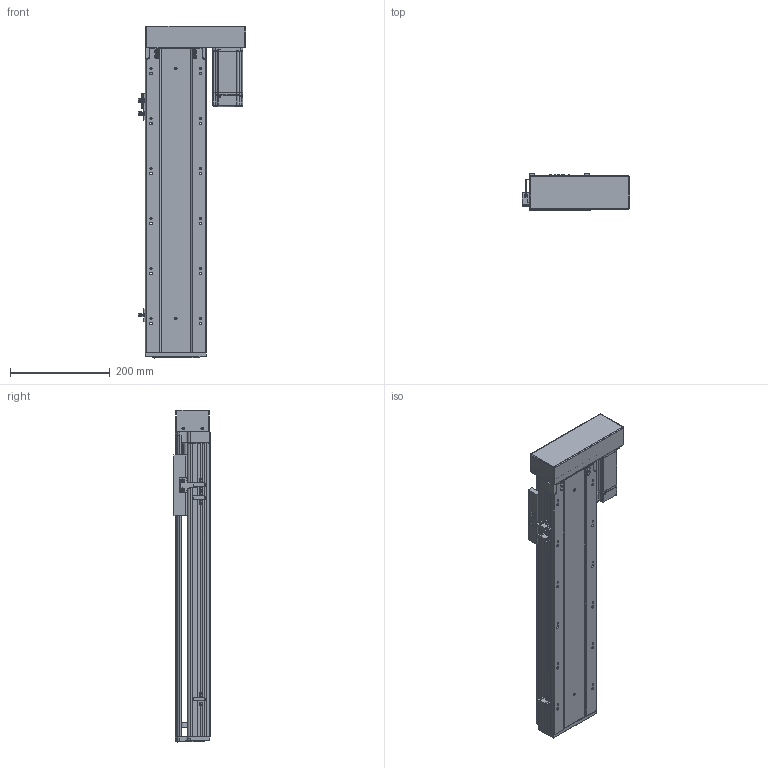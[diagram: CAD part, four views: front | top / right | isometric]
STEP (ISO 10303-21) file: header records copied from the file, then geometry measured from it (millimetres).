
FILE_DESCRIPTION (( 'STEP AP203' ), '1' );
FILE_NAME ('RY120-L2020-300-RK.SLDASM_400.step', '2021-03-12T07:14:06', ( '盈信电脑' ), ( '东莞市道滘镇水果街19号' ), 'SwSTEP 2.0', 'SolidWorks 2012', '' );
FILE_SCHEMA (( 'CONFIG_CONTROL_DESIGN' ));
Length unit declared in the file: millimetre
Products named in the file (15): RY120-L2020-300-RK.SLDASM_400; RY120-400W萇儂傷-酘衵殏_450; RY120酘殏萇儂假蚾啣; 侂狟400W侜督萇儂; 15; RY120蛌殏萇儂欶; 滅袉蝶18-24; 滅袉蝶18-10; RY120转拆电端丝杆支撑座(20丝杆，7002轴承); RY120外置感应片(140共用）; RY120綴裔啣; 覜茼ん672; RY120-300-RK蛌殏倰第奻裔啣_400; RY120臏賑輸(20蹟譫); RY120-300-RK蛌殏倰第菁釱_400
Assembly tree (17 placements, depth 4):
  RY120-L2020-300-RK.SLDASM_400
    RY120-300-RK蛌殏倰第菁釱_400
    RY120-300-RK蛌殏倰第奻裔啣_400
    RY120臏賑輸(20蹟譫)
    RY120綴裔啣
    覜茼ん672  x3
    滅袉蝶18-10
    滅袉蝶18-24  x2
    RY120外置感应片(140共用）
    RY120转拆电端丝杆支撑座(20丝杆，7002轴承)
    RY120-400W萇儂傷-酘衵殏_450
      RY120酘殏萇儂假蚾啣
      侂狟400W侜督萇儂
        15
      RY120蛌殏萇儂欶
Bounding box: 214.2 x 73 x 664 mm (x, y, z)
Volume: 2232102.8 mm3; surface area: 796500.1 mm2
Topology: 16 solids, 16 shells, 2354 faces, 6451 edges, 4134 vertices
Faces by surface type: plane 1206, cylinder 846, cone 197, bspline 105
Entity records: 77413 total; most frequent: CARTESIAN_POINT 21469, ORIENTED_EDGE 11630, DIRECTION 10779, EDGE_CURVE 5815, VERTEX_POINT 3802, VECTOR 3665, LINE 3665, AXIS2_PLACEMENT_3D 3557
